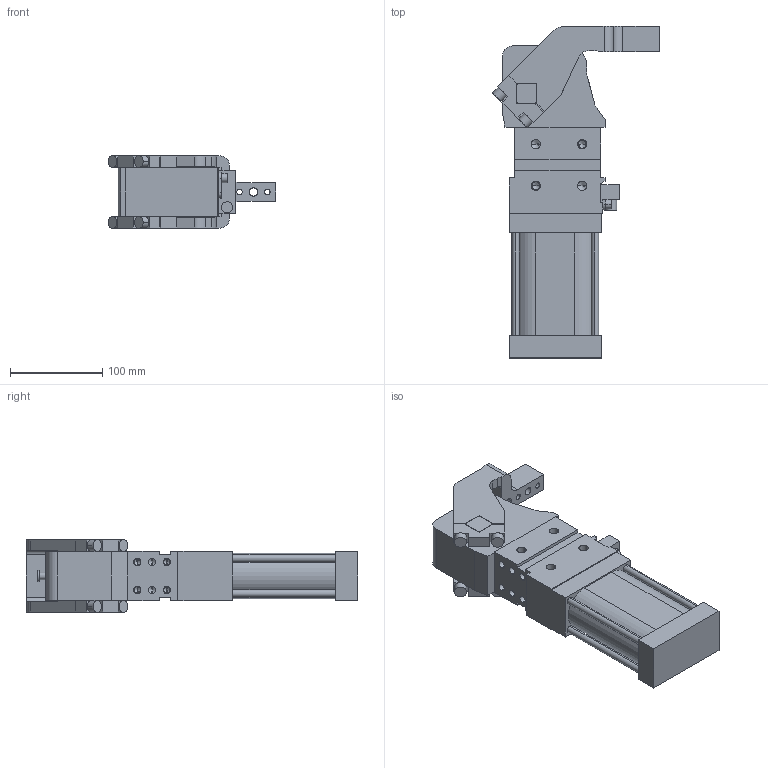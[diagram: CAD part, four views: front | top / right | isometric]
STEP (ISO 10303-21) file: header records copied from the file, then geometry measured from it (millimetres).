
FILE_DESCRIPTION (( 'STEP AP214' ), '1' );
FILE_NAME ('cpl63v3csi1g_26.STEP', '2023-01-26T10:42:12', ( '' ), ( '' ), 'SwSTEP 2.0', 'SolidWorks 2022', '' );
FILE_SCHEMA (( 'AUTOMOTIVE_DESIGN' ));
Length unit declared in the file: millimetre
Products named in the file (4): blocchetto_VEP_0; leva_cx_offset_45_cpl63; meccanica_cpl_63; cpl63v3csi1g_26
Assembly tree (3 placements, depth 2):
  cpl63v3csi1g_26
    meccanica_cpl_63
    blocchetto_VEP_0
    leva_cx_offset_45_cpl63
Bounding box: 181.09 x 359.5 x 79 mm (x, y, z)
Volume: 1800110.4 mm3; surface area: 192578.9 mm2
Topology: 3 solids, 3 shells, 398 faces, 1043 edges, 643 vertices
Faces by surface type: plane 200, cylinder 148, cone 50
Entity records: 13505 total; most frequent: DIRECTION 2127, CARTESIAN_POINT 2120, ORIENTED_EDGE 1994, EDGE_CURVE 997, AXIS2_PLACEMENT_3D 732, LINE 663, VECTOR 663, VERTEX_POINT 643
